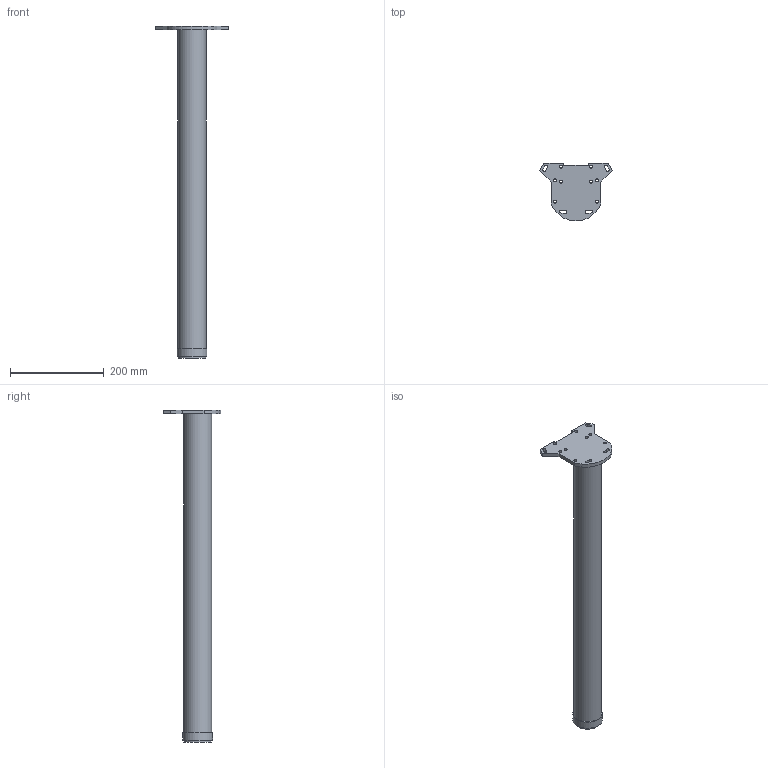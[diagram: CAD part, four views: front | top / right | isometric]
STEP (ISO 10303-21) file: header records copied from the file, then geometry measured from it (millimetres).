
FILE_DESCRIPTION( ( 'STEP AP214' ), '1' );
FILE_NAME( 'D:/Yug/2021/Desk_and_office_organisation/Correction in table leg fixing/QC/70134.stp', '2021-08-12T07:58:54', ( '' ), ( '' ), ' ', 'PARTsolutions', ' ' );
FILE_SCHEMA( ( 'AUTOMOTIVE_DESIGN { 1 0 10303 214 1 1 1 1 }' ) );
Length unit declared in the file: millimetre
Products named in the file (1): _70134
Bounding box: 155.69 x 124 x 710 mm (x, y, z)
Volume: 2090039.3 mm3; surface area: 164553.9 mm2
Topology: 1 solids, 1 shells, 44 faces, 117 edges, 78 vertices
Faces by surface type: plane 24, cylinder 20
Full cylindrical faces by diameter (mm): 6.5 x8, 59 x1, 60 x1, 63.7 x1
Entity records: 1742 total; most frequent: DIRECTION 236, CARTESIAN_POINT 229, ORIENTED_EDGE 212, EDGE_CURVE 106, AXIS2_PLACEMENT_3D 85, EDGE_LOOP 82, VERTEX_POINT 78, LINE 66
